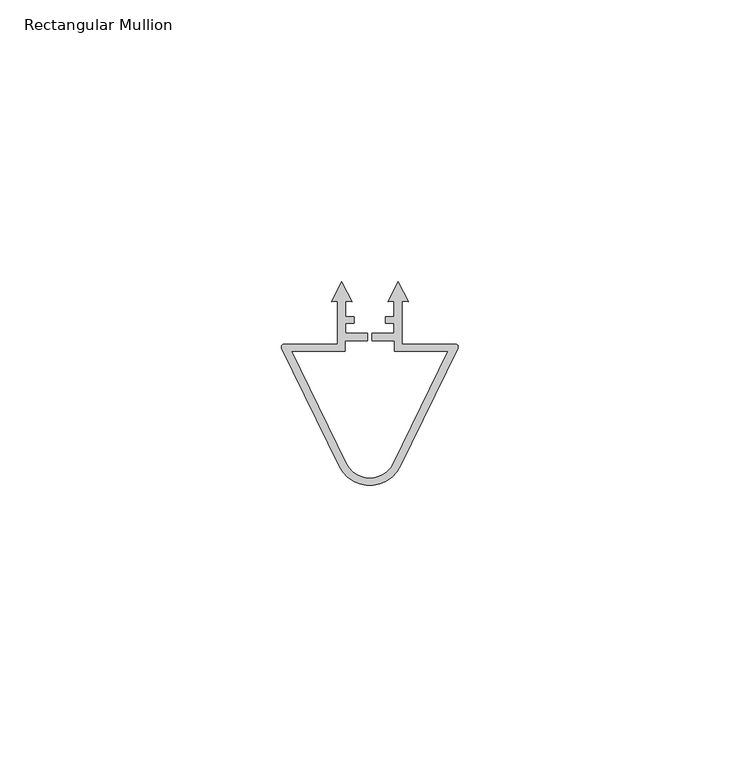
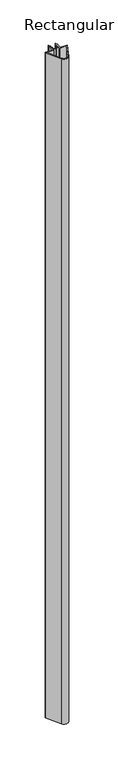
"""IFC4 building model written with IfcOpenShell, lengths in millimetres: member geometry, Rectangular Mullion : Renson_Linarte_LA-CO-02."""

from ifc_helpers import new_model, si_unit, point, frame, frame_2d, origin, place, context, project, spatial, polyline, circle_curve, trimmed, segment, composite_curve, outline, extrude, source, transform, mapped, element, save


def rectangular_mullion_7167efe5(model_context):
    return source(origin(), model_context, "Body", "SweptSolid", [
        extrude(outline(composite_curve([segment(polyline([(-10.6763824, -25.0), (-8.8606458, -28.5635874), (-9.9911369, -28.4646823), (-9.9911369, -36.0942631), (-0.5, -36.0942631)]), True, "CONTINUOUS"), segment(trimmed(circle_curve(frame_2d((-0.5, -36.5942631)), 0.5), [point((-0.5, -36.0942631))], [point((-0.050603, -36.8134487))], False, "CARTESIAN"), True, "CONTINUOUS"), segment(polyline([(-0.050603, -36.8134487), (-10.2983727, -57.8244902)]), True, "CONTINUOUS"), segment(trimmed(circle_curve(frame_2d((-15.6911369, -55.1942634)), 6.0), [point((-10.2983727, -57.8244902))], [point((-21.0839012, -57.8244902))], False, "CARTESIAN"), True, "CONTINUOUS"), segment(polyline([(-21.0839012, -57.8244902), (-31.3316709, -36.8134487)]), True, "CONTINUOUS"), segment(trimmed(circle_curve(frame_2d((-30.8822739, -36.5942631)), 0.5), [point((-31.3316709, -36.8134487))], [point((-30.8822739, -36.0942631))], False, "CARTESIAN"), True, "CONTINUOUS"), segment(polyline([(-30.8822739, -36.0942631), (-21.3911369, -36.0942631), (-21.3911369, -28.467264), (-22.492119, -28.5635874), (-20.6763824, -25.0), (-18.8606458, -28.5635874), (-19.9911369, -28.4646824), (-19.9911369, -31.1942631), (-18.4911369, -31.1942631), (-18.4911369, -32.3942631), (-19.9911369, -32.3942631), (-19.9911369, -34.1942631), (-16.0532689, -34.1942631), (-16.0532689, -35.4942631), (-20.0911369, -35.4942631), (-20.0911369, -37.3942631), (-29.6020063, -37.3942631), (-19.915469, -57.2546078)]), True, "CONTINUOUS"), segment(trimmed(circle_curve(frame_2d((-15.6911369, -55.1942634)), 4.7), [point((-19.915469, -57.2546078))], [point((-11.4668049, -57.2546078))], True, "CARTESIAN"), True, "CONTINUOUS"), segment(polyline([(-11.4668049, -57.2546078), (-1.7802676, -37.3942631), (-11.2911369, -37.3942631), (-11.2911369, -35.4942631), (-15.3290049, -35.4942631), (-15.3290049, -34.1942631), (-11.3911369, -34.1942631), (-11.3911369, -32.3942631), (-12.8911369, -32.3942631), (-12.8911369, -31.1942631), (-11.3911369, -31.1942631), (-11.3911369, -28.4672641), (-12.492119, -28.5635874), (-10.6763824, -25.0)]), True, "CONTINUOUS")], self_intersect=False)), frame((0.0, 0.0, -1000.0), z_axis=(0.0, 0.0, 1.0), x_axis=(1.0, 0.0, 0.0)), (0.0, 0.0, 1.0), 1000.0),
    ])


if __name__ == "__main__":
    model = new_model("IFC4")
    model_context = context("Model", 3, world=origin())
    ifc_project = project(units=[si_unit("LENGTHUNIT", "METRE", prefix="MILLI")], contexts=[model_context])
    site = spatial("IfcSite", under=ifc_project)
    building = spatial("IfcBuilding", under=site)
    placement = place(None, origin())
    rectangular_mullion_shape = rectangular_mullion_7167efe5(model_context)
    element("IfcMember", 1, ObjectType="Rectangular Mullion : Renson_Linarte_LA-CO-02", at=placement, inside=building, context=model_context, shape_type="MappedRepresentation", body=[
        mapped(rectangular_mullion_shape, transform((0.0, 0.0, 0.0), x_axis=(1.0, 0.0, 0.0), y_axis=(0.0, 1.0, 0.0), z_axis=(0.0, 0.0, 1.0))),
    ])
    save(model, "model.ifc")
